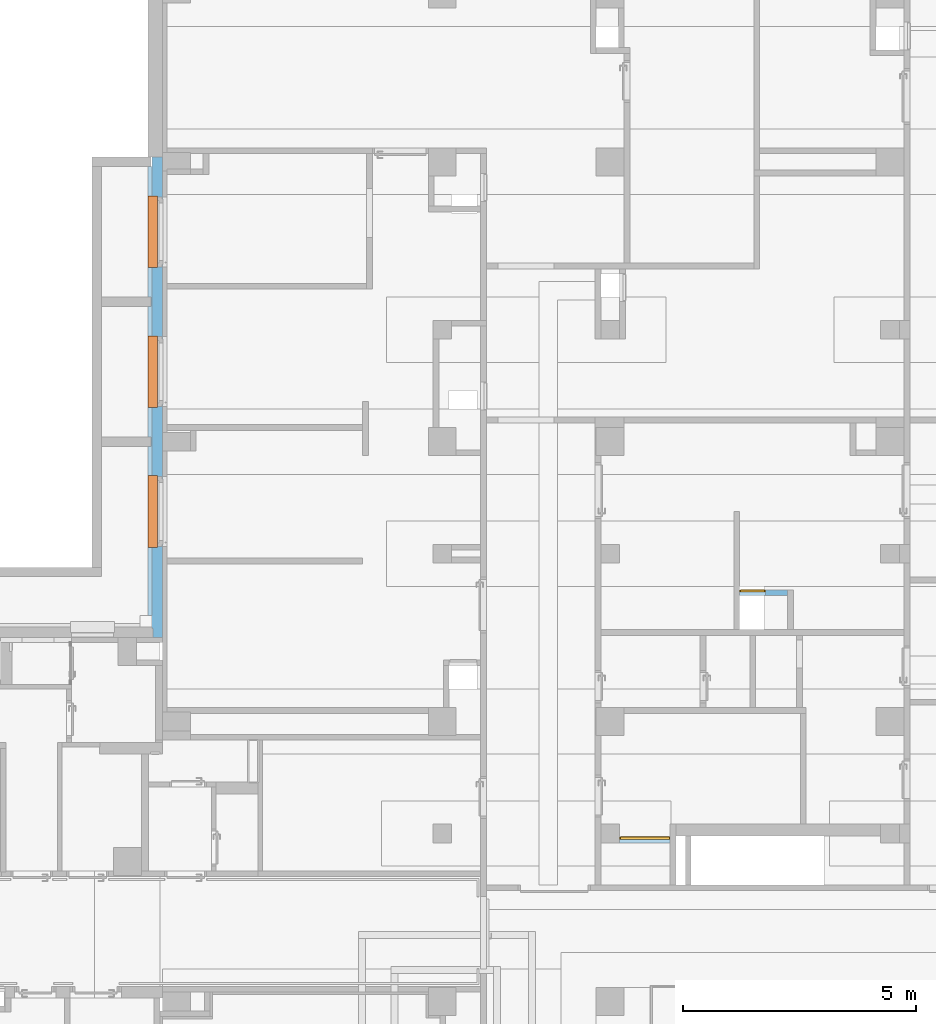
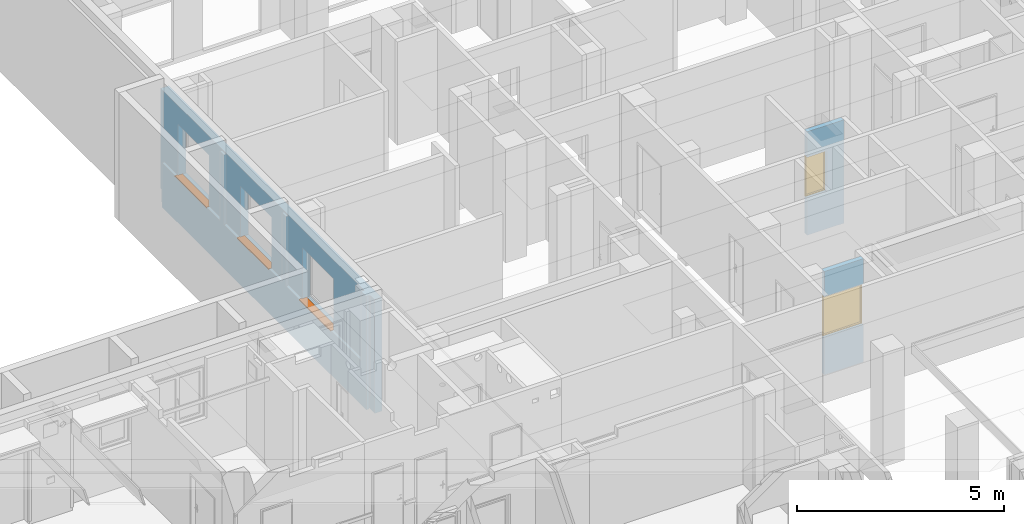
# One storey, part 68 of 84: 3 proxies, 2 windows, 5 openings, plus 3 elements that do not belong to this part.
"""IFC4 building model written with IfcOpenShell, lengths in metres."""

from ifc_helpers import new_model, entity, si_unit, converted_unit, derived_unit, frame, frame_2d, origin, origin_with_axes, place, context, subcontext, project, spatial, polyline, rectangle, outline, extrude, clip, bounded_halfspace, faceted_brep, source, transform, mapped, material, layer, layer_set, layer_usage, element, fill, save


model = new_model("IFC4")

# Units and contexts
model_context = context("Model", 3, precision=1e-05, world=origin())
body_context = subcontext(model_context, "Body", "Model", "MODEL_VIEW")
ifc_project = project(units=[si_unit("LENGTHUNIT", "METRE"), si_unit("AREAUNIT", "SQUARE_METRE"), si_unit("VOLUMEUNIT", "CUBIC_METRE"), si_unit("MASSUNIT", "GRAM", prefix="KILO"), converted_unit("PLANEANGLEUNIT", "DEGREE", entity("IfcPlaneAngleMeasure", 0.0174532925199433), si_unit("PLANEANGLEUNIT", "RADIAN"), dimensions=[0, 0, 0, 0, 0, 0, 0]), derived_unit("THERMALTRANSMITTANCEUNIT", [(si_unit("POWERUNIT", "WATT"), 1), (si_unit("THERMODYNAMICTEMPERATUREUNIT", "KELVIN"), -1), (si_unit("LENGTHUNIT", "METRE"), -2)]), derived_unit("VOLUMETRICFLOWRATEUNIT", [(si_unit("LENGTHUNIT", "METRE"), 3), (converted_unit("TIMEUNIT", "hour", entity("IfcTimeMeasure", 3600.0), si_unit("TIMEUNIT", "SECOND"), dimensions=[0, 0, 1, 0, 0, 0, 0]), -1), (si_unit("LENGTHUNIT", "METRE"), -1)])], contexts=[model_context])

# Site, building, storey
site_placement = place(None, origin())
site = spatial("IfcSite", under=ifc_project, at=site_placement, Name="3. ASŘ", CompositionType="ELEMENT")
building_placement = place(site_placement, origin())
building = spatial("IfcBuilding", under=site, at=building_placement, Name="Pavilon C", CompositionType="ELEMENT")
storey_placement = place(building_placement, frame((0.0, 0.0, -3.3)))
storey = spatial("IfcBuildingStorey", under=building, at=storey_placement, Name="Půdorys 1.PP", CompositionType="ELEMENT", Elevation=-3.3)

# Wall, openings, proxies
ifc_material_1 = material(Name="ZELEZOBETONOVÁ KCE")
ifc_layer_1 = layer(ifc_material_1, 0.2)
ifc_material_2 = material(Name="LIGNOPOR")
ifc_layer_2 = layer(ifc_material_2, 0.0249999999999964)
ifc_material_3 = material(Name="PÓROBETONOVÉ ZDIVO")
ifc_layer_3 = layer(ifc_material_3, 0.08)
ifc_layer_set_1 = layer_set([ifc_layer_1, ifc_layer_2, ifc_layer_3])
ifc_layer_usage_1 = layer_usage(ifc_layer_set_1, "AXIS2", "POSITIVE", 0.0)
wall_1_placement = place(storey_placement, frame((24.75, 15.0, -0.4), z_axis=(0.0, 0.0, 1.0), x_axis=(3.53201825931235e-16, 1.0, 0.0)))
wall_1 = element("IfcWall", 1, at=wall_1_placement, inside=storey, material=ifc_layer_usage_1, Name="ZELEZOBETONOVÁ KCE", context=body_context, shape_type="Clipping", body=[
    clip(clip(extrude(outline(polyline([(0.2, -0.0799999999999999), (0.2, -0.105), (3.70861917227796e-17, -0.105), (1.07726556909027e-16, -0.305), (10.3, -0.305), (10.3, -0.0800000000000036), (10.1, -0.0800000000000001), (10.1, -7.06403651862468e-17), (0.224999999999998, 7.94704108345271e-17), (0.224999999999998, -0.0799999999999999), (0.2, -0.0799999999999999)])), frame((-1.07726556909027e-16, 0.305, 0.0), z_axis=(0.0, 0.0, 1.0), x_axis=(1.0, 0.0, 0.0)), (0.0, 0.0, 1.0), 3.35), bounded_halfspace(frame((5.2625, 0.216666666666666, 0.4), z_axis=(0.0, 0.0, 1.0), x_axis=(-1.0, 4.02741822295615e-16, 0.0)), True, origin_with_axes(), polyline([(10.1, 0.224999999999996), (0.474999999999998, 0.225), (0.2, 0.225), (0.2, 0.2), (10.3, 0.2), (10.3, 0.224999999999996), (10.1, 0.224999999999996)]))), bounded_halfspace(frame((5.5625, 0.271666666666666, 1.3), z_axis=(0.0, 0.0, -1.0), x_axis=(3.53201825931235e-16, -1.0, 0.0)), True, origin_with_axes(), polyline([(0.474999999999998, 0.305), (0.474999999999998, 0.225), (10.1, 0.225), (10.1, 0.305), (7.3, 0.304999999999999), (7.3, 0.244999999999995), (7.1, 0.244999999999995), (7.1, 0.304999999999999), (4.3, 0.304999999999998), (4.3, 0.244999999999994), (4.1, 0.244999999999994), (4.1, 0.304999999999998), (0.474999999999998, 0.305)]))),
])
opening_1_placement = place(wall_1_placement, frame((3.45, 0.200000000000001, 1.3), z_axis=(0.0, -1.0, 0.0), x_axis=(0.0, 0.0, 1.0)))
opening_1 = element("IfcOpeningElement", 2, at=opening_1_placement, cuts=wall_1, Name="Okenní otvor", ObjectType="Opening", context=body_context, shape_type="SweptSolid", body=[
    extrude(outline(polyline([(0.0, 1.5), (1.5, 1.5), (1.5, 0.0), (0.0, 0.0), (0.0, 1.5)])), origin_with_axes(), (0.0, 0.0, 1.0), 0.2),
    extrude(outline(polyline([(0.0, 1.5), (1.5, 1.5), (1.5, 0.0), (0.0, 0.0), (0.0, 1.5)])), frame((0.0, 0.0, -0.025), z_axis=(0.0, 0.0, 1.0), x_axis=(1.0, 0.0, 0.0)), (0.0, 0.0, 1.0), 0.025),
    extrude(outline(polyline([(0.0, 1.5), (1.5, 1.5), (1.5, 0.0), (0.0, 0.0), (0.0, 1.5)])), frame((0.0, 0.0, -0.105), z_axis=(0.0, 0.0, 1.0), x_axis=(1.0, 0.0, 0.0)), (0.0, 0.0, 1.0), 0.08),
])
opening_2_placement = place(wall_1_placement, frame((6.45000000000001, 0.20000000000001, 1.3), z_axis=(0.0, -1.0, 0.0), x_axis=(0.0, 0.0, 1.0)))
opening_2 = element("IfcOpeningElement", 3, at=opening_2_placement, cuts=wall_1, Name="Okenní otvor", ObjectType="Opening", context=body_context, shape_type="SweptSolid", body=[
    extrude(outline(polyline([(0.0, 1.5), (1.5, 1.5), (1.5, 0.0), (0.0, 0.0), (0.0, 1.5)])), origin_with_axes(), (0.0, 0.0, 1.0), 0.2),
    extrude(outline(polyline([(0.0, 1.5), (1.5, 1.5), (1.5, 0.0), (0.0, 0.0), (0.0, 1.5)])), frame((0.0, 0.0, -0.025), z_axis=(0.0, 0.0, 1.0), x_axis=(1.0, 0.0, 0.0)), (0.0, 0.0, 1.0), 0.025),
    extrude(outline(polyline([(0.0, 1.5), (1.5, 1.5), (1.5, 0.0), (0.0, 0.0), (0.0, 1.5)])), frame((0.0, 0.0, -0.105), z_axis=(0.0, 0.0, 1.0), x_axis=(1.0, 0.0, 0.0)), (0.0, 0.0, 1.0), 0.08),
])
opening_3_placement = place(wall_1_placement, frame((9.45000000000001, 0.200000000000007, 1.3), z_axis=(0.0, -1.0, 0.0), x_axis=(0.0, 0.0, 1.0)))
opening_3 = element("IfcOpeningElement", 4, at=opening_3_placement, cuts=wall_1, Name="Okenní otvor", ObjectType="Opening", context=body_context, shape_type="SweptSolid", body=[
    extrude(outline(polyline([(0.0, 1.5), (1.5, 1.5), (1.5, 0.0), (0.0, 0.0), (0.0, 1.5)])), origin_with_axes(), (0.0, 0.0, 1.0), 0.2),
    extrude(outline(polyline([(0.0, 1.5), (1.5, 1.5), (1.5, 0.0), (0.0, 0.0), (0.0, 1.5)])), frame((0.0, 0.0, -0.025), z_axis=(0.0, 0.0, 1.0), x_axis=(1.0, 0.0, 0.0)), (0.0, 0.0, 1.0), 0.025),
    extrude(outline(polyline([(0.0, 1.5), (1.5, 1.5), (1.5, 0.0), (0.0, 0.0), (0.0, 1.5)])), frame((0.0, 0.0, -0.105), z_axis=(0.0, 0.0, 1.0), x_axis=(1.0, 0.0, 0.0)), (0.0, 0.0, 1.0), 0.08),
])
ifc_material_4 = material(Name="PLECH")
shared_shape_1 = source(origin_with_axes(), body_context, "Body", "Brep", [
    faceted_brep([(7.27595761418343e-15, -0.105000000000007, 0.0), (7.27595761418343e-15, 0.0949999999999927, 0.0), (7.27595761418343e-15, 0.0949999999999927, 0.005), (7.27595761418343e-15, -0.105000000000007, 0.005), (1.50000000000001, -0.105000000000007, 0.0), (1.50000000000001, -0.105000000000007, 0.005), (1.50000000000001, 0.0949999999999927, 0.005), (1.50000000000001, 0.0949999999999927, 0.0), (1.52000000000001, -0.105000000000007, 0.005), (1.52000000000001, -0.110000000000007, 0.005), (-0.0199999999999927, -0.110000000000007, 0.005), (-0.0199999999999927, -0.105000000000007, 0.005), (-0.0199999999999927, -0.110000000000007, -0.025), (-0.0199999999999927, -0.105000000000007, -0.025), (1.52000000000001, -0.105000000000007, -0.025), (1.52000000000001, -0.110000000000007, -0.025)], [[[0, 1, 2, 3]], [[4, 5, 6, 7]], [[1, 0, 4, 7]], [[2, 1, 7, 6]], [[3, 2, 6, 5, 8, 9, 10, 11]], [[11, 10, 12, 13]], [[8, 14, 15, 9]], [[13, 14, 8, 5, 4, 0, 3, 11]], [[12, 15, 14, 13]], [[10, 9, 15, 12]]], orient=[[False], [False], [False], [False], [False], [False], [False], [False], [False], [False]]),
    faceted_brep([(-0.0199999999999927, -0.105000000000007, 0.0), (-0.0199999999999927, 0.0949999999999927, 0.0), (-0.0199999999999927, 0.0949999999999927, 0.005), (-0.0199999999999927, -0.105000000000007, 0.005), (7.27595761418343e-15, -0.105000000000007, 0.0), (7.27595761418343e-15, -0.105000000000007, 0.005), (7.27595761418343e-15, 0.0949999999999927, 0.005), (7.27595761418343e-15, 0.0949999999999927, 0.0)], [[[0, 1, 2, 3]], [[4, 5, 6, 7]], [[1, 0, 4, 7]], [[2, 1, 7, 6]], [[3, 2, 6, 5]], [[0, 3, 5, 4]]], orient=[[False], [False], [False], [False], [False], [False]]),
    faceted_brep([(1.50000000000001, -0.105000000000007, 0.0), (1.50000000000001, 0.0949999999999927, 0.0), (1.50000000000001, 0.0949999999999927, 0.005), (1.50000000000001, -0.105000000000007, 0.005), (1.52000000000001, -0.105000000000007, 0.0), (1.52000000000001, -0.105000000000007, 0.005), (1.52000000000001, 0.0949999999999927, 0.005), (1.52000000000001, 0.0949999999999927, 0.0)], [[[0, 1, 2, 3]], [[4, 5, 6, 7]], [[1, 0, 4, 7]], [[2, 1, 7, 6]], [[3, 2, 6, 5]], [[0, 3, 5, 4]]], orient=[[False], [False], [False], [False], [False], [False]]),
])
proxy_1_placement = place(opening_1_placement, frame((0.0, 0.0, 0.0), z_axis=(1.0, 0.0, 0.0), x_axis=(0.0, 1.0, 0.0)))
proxy_1 = element("IfcBuildingElementProxy", 5, at=proxy_1_placement, inside=storey, material=ifc_material_4, Name="Parapet vnější", context=body_context, shape_type="MappedRepresentation", body=[
    mapped(shared_shape_1, transform((0.0, 0.0, 0.0), x_axis=(1.0, 0.0, 0.0), y_axis=(0.0, 1.0, 0.0), z_axis=(0.0, 0.0, 1.0), scale=1.0)),
])
fill(opening_1, proxy_1)
ifc_material_5 = material(Name="PLECH")
shared_shape_2 = source(origin_with_axes(), body_context, "Body", "Brep", [
    faceted_brep([(7.27595761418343e-15, -0.105000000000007, 0.0), (7.27595761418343e-15, 0.0949999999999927, 0.0), (7.27595761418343e-15, 0.0949999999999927, 0.005), (7.27595761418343e-15, -0.105000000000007, 0.005), (1.50000000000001, -0.105000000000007, 0.0), (1.50000000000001, -0.105000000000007, 0.005), (1.50000000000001, 0.0949999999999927, 0.005), (1.50000000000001, 0.0949999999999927, 0.0), (1.52000000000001, -0.105000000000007, 0.005), (1.52000000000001, -0.110000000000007, 0.005), (-0.0199999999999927, -0.110000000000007, 0.005), (-0.0199999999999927, -0.105000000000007, 0.005), (-0.0199999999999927, -0.110000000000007, -0.025), (-0.0199999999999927, -0.105000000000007, -0.025), (1.52000000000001, -0.105000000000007, -0.025), (1.52000000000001, -0.110000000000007, -0.025)], [[[0, 1, 2, 3]], [[4, 5, 6, 7]], [[1, 0, 4, 7]], [[2, 1, 7, 6]], [[3, 2, 6, 5, 8, 9, 10, 11]], [[11, 10, 12, 13]], [[8, 14, 15, 9]], [[13, 14, 8, 5, 4, 0, 3, 11]], [[12, 15, 14, 13]], [[10, 9, 15, 12]]], orient=[[False], [False], [False], [False], [False], [False], [False], [False], [False], [False]]),
    faceted_brep([(-0.0199999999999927, -0.105000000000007, 0.0), (-0.0199999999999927, 0.0949999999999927, 0.0), (-0.0199999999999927, 0.0949999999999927, 0.005), (-0.0199999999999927, -0.105000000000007, 0.005), (7.27595761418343e-15, -0.105000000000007, 0.0), (7.27595761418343e-15, -0.105000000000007, 0.005), (7.27595761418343e-15, 0.0949999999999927, 0.005), (7.27595761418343e-15, 0.0949999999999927, 0.0)], [[[0, 1, 2, 3]], [[4, 5, 6, 7]], [[1, 0, 4, 7]], [[2, 1, 7, 6]], [[3, 2, 6, 5]], [[0, 3, 5, 4]]], orient=[[False], [False], [False], [False], [False], [False]]),
    faceted_brep([(1.50000000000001, -0.105000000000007, 0.0), (1.50000000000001, 0.0949999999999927, 0.0), (1.50000000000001, 0.0949999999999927, 0.005), (1.50000000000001, -0.105000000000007, 0.005), (1.52000000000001, -0.105000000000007, 0.0), (1.52000000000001, -0.105000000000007, 0.005), (1.52000000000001, 0.0949999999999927, 0.005), (1.52000000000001, 0.0949999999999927, 0.0)], [[[0, 1, 2, 3]], [[4, 5, 6, 7]], [[1, 0, 4, 7]], [[2, 1, 7, 6]], [[3, 2, 6, 5]], [[0, 3, 5, 4]]], orient=[[False], [False], [False], [False], [False], [False]]),
])
proxy_2_placement = place(opening_2_placement, frame((0.0, 0.0, 0.0), z_axis=(1.0, 0.0, 0.0), x_axis=(0.0, 1.0, 0.0)))
proxy_2 = element("IfcBuildingElementProxy", 6, at=proxy_2_placement, inside=storey, material=ifc_material_5, Name="Parapet vnější", context=body_context, shape_type="MappedRepresentation", body=[
    mapped(shared_shape_2, transform((0.0, 0.0, 0.0), x_axis=(1.0, 0.0, 0.0), y_axis=(0.0, 1.0, 0.0), z_axis=(0.0, 0.0, 1.0), scale=1.0)),
])
fill(opening_2, proxy_2)
ifc_material_6 = material(Name="PLECH")
shared_shape_3 = source(origin_with_axes(), body_context, "Body", "Brep", [
    faceted_brep([(7.27595761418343e-15, -0.105000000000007, 0.0), (7.27595761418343e-15, 0.0949999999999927, 0.0), (7.27595761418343e-15, 0.0949999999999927, 0.005), (7.27595761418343e-15, -0.105000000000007, 0.005), (1.50000000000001, -0.105000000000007, 0.0), (1.50000000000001, -0.105000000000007, 0.005), (1.50000000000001, 0.0949999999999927, 0.005), (1.50000000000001, 0.0949999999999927, 0.0), (1.52000000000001, -0.105000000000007, 0.005), (1.52000000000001, -0.110000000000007, 0.005), (-0.0199999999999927, -0.110000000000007, 0.005), (-0.0199999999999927, -0.105000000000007, 0.005), (-0.0199999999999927, -0.110000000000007, -0.025), (-0.0199999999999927, -0.105000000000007, -0.025), (1.52000000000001, -0.105000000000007, -0.025), (1.52000000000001, -0.110000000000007, -0.025)], [[[0, 1, 2, 3]], [[4, 5, 6, 7]], [[1, 0, 4, 7]], [[2, 1, 7, 6]], [[3, 2, 6, 5, 8, 9, 10, 11]], [[11, 10, 12, 13]], [[8, 14, 15, 9]], [[13, 14, 8, 5, 4, 0, 3, 11]], [[12, 15, 14, 13]], [[10, 9, 15, 12]]], orient=[[False], [False], [False], [False], [False], [False], [False], [False], [False], [False]]),
    faceted_brep([(-0.0199999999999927, -0.105000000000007, 0.0), (-0.0199999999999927, 0.0949999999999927, 0.0), (-0.0199999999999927, 0.0949999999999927, 0.005), (-0.0199999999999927, -0.105000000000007, 0.005), (7.27595761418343e-15, -0.105000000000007, 0.0), (7.27595761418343e-15, -0.105000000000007, 0.005), (7.27595761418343e-15, 0.0949999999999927, 0.005), (7.27595761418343e-15, 0.0949999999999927, 0.0)], [[[0, 1, 2, 3]], [[4, 5, 6, 7]], [[1, 0, 4, 7]], [[2, 1, 7, 6]], [[3, 2, 6, 5]], [[0, 3, 5, 4]]], orient=[[False], [False], [False], [False], [False], [False]]),
    faceted_brep([(1.50000000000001, -0.105000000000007, 0.0), (1.50000000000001, 0.0949999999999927, 0.0), (1.50000000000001, 0.0949999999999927, 0.005), (1.50000000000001, -0.105000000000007, 0.005), (1.52000000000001, -0.105000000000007, 0.0), (1.52000000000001, -0.105000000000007, 0.005), (1.52000000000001, 0.0949999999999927, 0.005), (1.52000000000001, 0.0949999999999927, 0.0)], [[[0, 1, 2, 3]], [[4, 5, 6, 7]], [[1, 0, 4, 7]], [[2, 1, 7, 6]], [[3, 2, 6, 5]], [[0, 3, 5, 4]]], orient=[[False], [False], [False], [False], [False], [False]]),
])
proxy_3_placement = place(opening_3_placement, frame((0.0, 0.0, 0.0), z_axis=(1.0, 0.0, 0.0), x_axis=(0.0, 1.0, 0.0)))
proxy_3 = element("IfcBuildingElementProxy", 7, at=proxy_3_placement, inside=storey, material=ifc_material_6, Name="Parapet vnější", context=body_context, shape_type="MappedRepresentation", body=[
    mapped(shared_shape_3, transform((0.0, 0.0, 0.0), x_axis=(1.0, 0.0, 0.0), y_axis=(0.0, 1.0, 0.0), z_axis=(0.0, 0.0, 1.0), scale=1.0)),
])
fill(opening_3, proxy_3)

# Wall, opening, window
ifc_material_7 = material(Name="ZDIVO Z CDm")
ifc_layer_4 = layer(ifc_material_7, 0.125)
ifc_layer_set_2 = layer_set([ifc_layer_4])
ifc_layer_usage_2 = layer_usage(ifc_layer_set_2, "AXIS2", "POSITIVE", 0.0)
wall_2_placement = place(storey_placement, frame((34.55, 10.6, -0.1)))
wall_2 = element("IfcWall", 8, at=wall_2_placement, inside=storey, material=ifc_layer_usage_2, Name="ZDIVO Z CDm", context=body_context, shape_type="SweptSolid", body=[
    extrude(rectangle(XDim=1.0875, YDim=0.125, at=frame_2d((0.54375, 0.0625), x_axis=(1.0, 0.0))), origin_with_axes(), (0.0, 0.0, 1.0), 3.05),
])
opening_4_placement = place(wall_2_placement, frame((1.0875, 0.125, 1.1), z_axis=(0.0, -1.0, 0.0), x_axis=(0.0, 0.0, 1.0)))
opening_4 = element("IfcOpeningElement", 9, at=opening_4_placement, cuts=wall_2, Name="Okenní otvor", ObjectType="Opening", context=body_context, shape_type="SweptSolid", body=[
    extrude(outline(polyline([(0.0, 1.0875), (1.2, 1.0875), (1.2, 0.0), (0.0, 0.0), (0.0, 1.0875)])), origin_with_axes(), (0.0, 0.0, 1.0), 0.125),
])
shared_shape_4 = source(origin_with_axes(), body_context, "Body", "Brep", [
    faceted_brep([(0.0, 0.0600000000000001, 1.2), (0.0, 0.06, 4.91096680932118e-19), (0.02, 0.06, 4.91096680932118e-19), (0.02, 0.0600000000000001, 1.2), (0.0, 0.01, 6.61433067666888e-18), (0.0, 0.0100000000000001, 1.2), (0.02, 0.0100000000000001, 1.2), (0.02, 0.01, 6.61433067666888e-18)], [[[0, 1, 2, 3]], [[4, 5, 6, 7]], [[1, 0, 5, 4]], [[2, 1, 4, 7]], [[3, 2, 7, 6]], [[0, 3, 6, 5]]], orient=[[False], [False], [False], [False], [False], [False]]),
    faceted_brep([(1.0675, 0.0600000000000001, 1.2), (1.0675, 0.06, 4.91096680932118e-19), (1.0875, 0.06, 4.91096680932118e-19), (1.0875, 0.0600000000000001, 1.2), (1.0675, 0.01, 6.61433067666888e-18), (1.0675, 0.0100000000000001, 1.2), (1.0875, 0.0100000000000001, 1.2), (1.0875, 0.01, 6.61433067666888e-18)], [[[0, 1, 2, 3]], [[4, 5, 6, 7]], [[1, 0, 5, 4]], [[2, 1, 4, 7]], [[3, 2, 7, 6]], [[0, 3, 6, 5]]], orient=[[False], [False], [False], [False], [False], [False]]),
    faceted_brep([(0.02, 0.06, 0.02), (0.02, 0.06, 4.91096680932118e-19), (1.0675, 0.06, 4.91096680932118e-19), (1.0675, 0.06, 0.02), (0.02, 0.01, 6.61433067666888e-18), (0.02, 0.01, 0.02), (1.0675, 0.01, 0.02), (1.0675, 0.01, 6.61433067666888e-18)], [[[0, 1, 2, 3]], [[4, 5, 6, 7]], [[1, 0, 5, 4]], [[2, 1, 4, 7]], [[3, 2, 7, 6]], [[0, 3, 6, 5]]], orient=[[False], [False], [False], [False], [False], [False]]),
    faceted_brep([(0.02, 0.0600000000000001, 1.2), (0.02, 0.0600000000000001, 1.18), (1.0675, 0.0600000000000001, 1.18), (1.0675, 0.0600000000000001, 1.2), (0.02, 0.0100000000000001, 1.18), (0.02, 0.0100000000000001, 1.2), (1.0675, 0.0100000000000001, 1.2), (1.0675, 0.0100000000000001, 1.18)], [[[0, 1, 2, 3]], [[4, 5, 6, 7]], [[1, 0, 5, 4]], [[2, 1, 4, 7]], [[3, 2, 7, 6]], [[0, 3, 6, 5]]], orient=[[False], [False], [False], [False], [False], [False]]),
    faceted_brep([(0.02, 0.0100000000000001, 1.18), (0.02, 0.01, 0.02), (1.0675, 0.01, 0.02), (1.0675, 0.0100000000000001, 1.18), (0.02, 0.0, 0.02), (0.02, 1.4210854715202e-16, 1.18), (1.0675, 1.4210854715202e-16, 1.18), (1.0675, 0.0, 0.02)], [[[0, 1, 2, 3]], [[4, 5, 6, 7]], [[1, 0, 5, 4]], [[2, 1, 4, 7]], [[3, 2, 7, 6]], [[0, 3, 6, 5]]], orient=[[False], [False], [False], [False], [False], [False]]),
])
window_1_placement = place(opening_4_placement, frame((0.0, 0.0, -0.01), z_axis=(1.0, 0.0, 0.0), x_axis=(0.0, 1.0, -1.22464679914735e-16)))
window_1 = element("IfcWindow", 10, at=window_1_placement, inside=storey, Name="O01", OverallHeight=1.2, OverallWidth=1.0875, PartitioningType="USERDEFINED", PredefinedType="WINDOW", context=body_context, shape_type="MappedRepresentation", body=[
    mapped(shared_shape_4, transform((0.0, 0.0, 0.0), x_axis=(1.0, 0.0, 0.0), y_axis=(0.0, 1.0, 0.0), z_axis=(0.0, 0.0, 1.0), scale=1.0)),
])
fill(opening_4, window_1)

ifc_material_8 = material(Name="ZDIVO Z CDm")
ifc_layer_5 = layer(ifc_material_8, 0.125)
ifc_layer_set_3 = layer_set([ifc_layer_5])
ifc_layer_usage_3 = layer_usage(ifc_layer_set_3, "AXIS2", "POSITIVE", 0.0)
wall_3_placement = place(storey_placement, frame((38.15, 16.025, -0.1), z_axis=(0.0, 0.0, 1.0), x_axis=(-1.0, 0.0, 0.0)))
wall_3 = element("IfcWall", 11, at=wall_3_placement, inside=storey, material=ifc_layer_usage_3, Name="ZDIVO Z CDm", context=body_context, shape_type="SweptSolid", body=[
    extrude(rectangle(XDim=1.025, YDim=0.125, at=frame_2d((0.5125, 0.0625), x_axis=(1.0, 0.0))), origin_with_axes(), (0.0, 0.0, 1.0), 3.05),
])
opening_5_placement = place(wall_3_placement, frame((0.475, 0.0, 1.1), z_axis=(0.0, 1.0, 0.0), x_axis=(0.0, 0.0, 1.0)))
opening_5 = element("IfcOpeningElement", 12, at=opening_5_placement, cuts=wall_3, Name="Okenní otvor", ObjectType="Opening", context=body_context, shape_type="SweptSolid", body=[
    extrude(outline(polyline([(0.0, 0.55), (1.2, 0.55), (1.2, 0.0), (0.0, 0.0), (0.0, 0.55)])), origin_with_axes(), (0.0, 0.0, 1.0), 0.125),
])
shared_shape_5 = source(origin_with_axes(), body_context, "Body", "Brep", [
    faceted_brep([(0.0, 0.0600000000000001, 1.2), (0.0, 0.06, 4.91096680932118e-19), (0.02, 0.06, 4.91096680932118e-19), (0.02, 0.0600000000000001, 1.2), (0.0, 0.01, 6.61433067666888e-18), (0.0, 0.0100000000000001, 1.2), (0.02, 0.0100000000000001, 1.2), (0.02, 0.01, 6.61433067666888e-18)], [[[0, 1, 2, 3]], [[4, 5, 6, 7]], [[1, 0, 5, 4]], [[2, 1, 4, 7]], [[3, 2, 7, 6]], [[0, 3, 6, 5]]], orient=[[False], [False], [False], [False], [False], [False]]),
    faceted_brep([(0.53, 0.0600000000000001, 1.2), (0.53, 0.06, 4.91096680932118e-19), (0.55, 0.06, 4.91096680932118e-19), (0.55, 0.0600000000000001, 1.2), (0.53, 0.01, 6.61433067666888e-18), (0.53, 0.0100000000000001, 1.2), (0.55, 0.0100000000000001, 1.2), (0.55, 0.01, 6.61433067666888e-18)], [[[0, 1, 2, 3]], [[4, 5, 6, 7]], [[1, 0, 5, 4]], [[2, 1, 4, 7]], [[3, 2, 7, 6]], [[0, 3, 6, 5]]], orient=[[False], [False], [False], [False], [False], [False]]),
    faceted_brep([(0.02, 0.06, 0.02), (0.02, 0.06, 4.91096680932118e-19), (0.53, 0.06, 4.91096680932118e-19), (0.53, 0.06, 0.02), (0.02, 0.01, 6.61433067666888e-18), (0.02, 0.01, 0.02), (0.53, 0.01, 0.02), (0.53, 0.01, 6.61433067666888e-18)], [[[0, 1, 2, 3]], [[4, 5, 6, 7]], [[1, 0, 5, 4]], [[2, 1, 4, 7]], [[3, 2, 7, 6]], [[0, 3, 6, 5]]], orient=[[False], [False], [False], [False], [False], [False]]),
    faceted_brep([(0.02, 0.0600000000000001, 1.2), (0.02, 0.0600000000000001, 1.18), (0.53, 0.0600000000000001, 1.18), (0.53, 0.0600000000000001, 1.2), (0.02, 0.0100000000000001, 1.18), (0.02, 0.0100000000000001, 1.2), (0.53, 0.0100000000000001, 1.2), (0.53, 0.0100000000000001, 1.18)], [[[0, 1, 2, 3]], [[4, 5, 6, 7]], [[1, 0, 5, 4]], [[2, 1, 4, 7]], [[3, 2, 7, 6]], [[0, 3, 6, 5]]], orient=[[False], [False], [False], [False], [False], [False]]),
    faceted_brep([(0.02, 0.0100000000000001, 1.18), (0.02, 0.01, 0.02), (0.53, 0.01, 0.02), (0.53, 0.0100000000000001, 1.18), (0.02, 0.0, 0.02), (0.02, 1.4210854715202e-16, 1.18), (0.53, 1.4210854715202e-16, 1.18), (0.53, 0.0, 0.02)], [[[0, 1, 2, 3]], [[4, 5, 6, 7]], [[1, 0, 5, 4]], [[2, 1, 4, 7]], [[3, 2, 7, 6]], [[0, 3, 6, 5]]], orient=[[False], [False], [False], [False], [False], [False]]),
])
window_2_placement = place(opening_5_placement, frame((0.0, 0.55, -0.0100000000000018), z_axis=(1.0, 0.0, 0.0), x_axis=(0.0, -1.0, 1.22464679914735e-16)))
window_2 = element("IfcWindow", 13, at=window_2_placement, inside=storey, Name="O01", OverallHeight=1.2, OverallWidth=0.55, PartitioningType="USERDEFINED", PredefinedType="WINDOW", context=body_context, shape_type="MappedRepresentation", body=[
    mapped(shared_shape_5, transform((0.0, 0.0, 0.0), x_axis=(1.0, 0.0, 0.0), y_axis=(0.0, -1.0, 0.0), z_axis=(0.0, 0.0, 1.0), scale=1.0)),
])
fill(opening_5, window_2)

save(model, "model.ifc")
